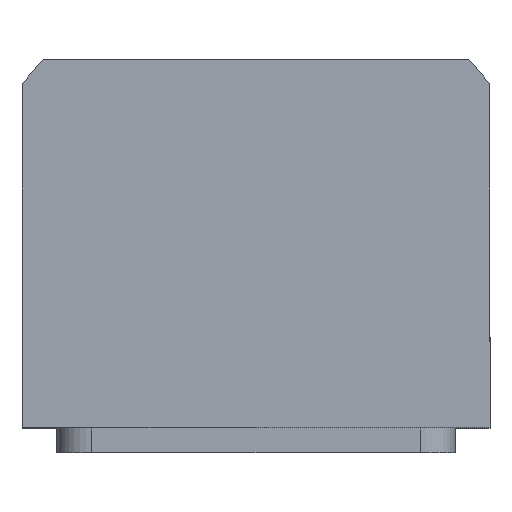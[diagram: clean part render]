
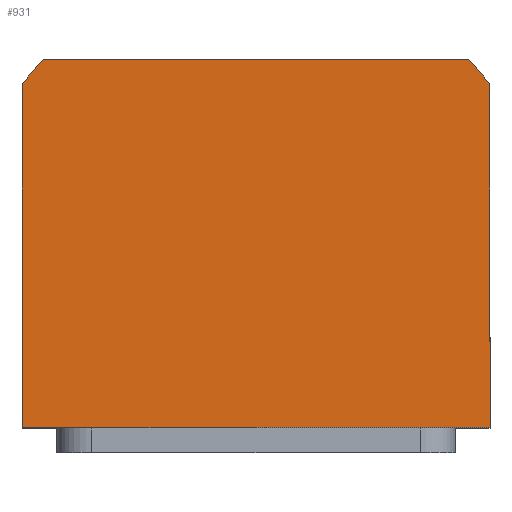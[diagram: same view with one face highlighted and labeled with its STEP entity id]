
A CAD part, top view. The second image highlights one B-rep face of the part: STEP entity #931.
In plain terms, the highlighted planar face has unit normal (0, 0, 1).
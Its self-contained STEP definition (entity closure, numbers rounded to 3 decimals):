
#104 = DIRECTION ( 'NONE',  ( 0., -1., 0. ) ) ;
#145 = DIRECTION ( 'NONE',  ( 0., 1., 0. ) ) ;
#931 = ADVANCED_FACE ( 'NONE', ( #5028 ), #7140, .T. ) ;
#1042 = VERTEX_POINT ( 'NONE', #1425 ) ;
#1148 = CARTESIAN_POINT ( 'NONE',  ( 0., 0., 52.5 ) ) ;
#1168 = ORIENTED_EDGE ( 'NONE', *, *, #6647, .T. ) ;
#1425 = CARTESIAN_POINT ( 'NONE',  ( 47., -34., 52.5 ) ) ;
#1853 = VECTOR ( 'NONE', #104, 1000. ) ;
#1873 = EDGE_CURVE ( 'NONE', #6064, #10573, #9437, .T. ) ;
#2165 = CARTESIAN_POINT ( 'NONE',  ( 42.688, 40., 52.5 ) ) ;
#2871 = DIRECTION ( 'NONE',  ( 1., 0., 0. ) ) ;
#3164 = CARTESIAN_POINT ( 'NONE',  ( -42.688, 40., 52.5 ) ) ;
#3361 = AXIS2_PLACEMENT_3D ( 'NONE', #3376, #10210, #3451 ) ;
#3376 = CARTESIAN_POINT ( 'NONE',  ( 0., 0., 52.5 ) ) ;
#3451 = DIRECTION ( 'NONE',  ( 1., 0., 0. ) ) ;
#3823 = ORIENTED_EDGE ( 'NONE', *, *, #6723, .T. ) ;
#4039 = CARTESIAN_POINT ( 'NONE',  ( -42.688, 40., 52.5 ) ) ;
#4150 = LINE ( 'NONE', #6910, #1853 ) ;
#4456 = VECTOR ( 'NONE', #4884, 1000. ) ;
#4515 = CARTESIAN_POINT ( 'NONE',  ( 47., -34., 52.5 ) ) ;
#4884 = DIRECTION ( 'NONE',  ( -1., 0., 0. ) ) ;
#5028 = FACE_OUTER_BOUND ( 'NONE', #8286, .T. ) ;
#5059 = ORIENTED_EDGE ( 'NONE', *, *, #1873, .T. ) ;
#5111 = VECTOR ( 'NONE', #145, 1000. ) ;
#5122 = LINE ( 'NONE', #3164, #4456 ) ;
#5157 = VERTEX_POINT ( 'NONE', #8476 ) ;
#5250 = CARTESIAN_POINT ( 'NONE',  ( 47., 34.832, 52.5 ) ) ;
#5395 = DIRECTION ( 'NONE',  ( 1., 0., 0. ) ) ;
#5502 = LINE ( 'NONE', #5250, #5111 ) ;
#5632 = VECTOR ( 'NONE', #5395, 1000. ) ;
#5654 = EDGE_CURVE ( 'NONE', #9642, #6064, #5122, .T. ) ;
#5714 = ORIENTED_EDGE ( 'NONE', *, *, #9327, .T. ) ;
#5903 = LINE ( 'NONE', #4515, #5632 ) ;
#6064 = VERTEX_POINT ( 'NONE', #4039 ) ;
#6377 = DIRECTION ( 'NONE',  ( 1., 0., 0. ) ) ;
#6647 = EDGE_CURVE ( 'NONE', #1042, #5157, #5502, .T. ) ;
#6723 = EDGE_CURVE ( 'NONE', #9584, #1042, #5903, .T. ) ;
#6764 = ORIENTED_EDGE ( 'NONE', *, *, #7816, .T. ) ;
#6910 = CARTESIAN_POINT ( 'NONE',  ( -47., -34., 52.5 ) ) ;
#7140 = PLANE ( 'NONE',  #8242 ) ;
#7220 = DIRECTION ( 'NONE',  ( 0., 0., 1. ) ) ;
#7278 = DIRECTION ( 'NONE',  ( 0., 0., 1. ) ) ;
#7290 = ORIENTED_EDGE ( 'NONE', *, *, #5654, .T. ) ;
#7816 = EDGE_CURVE ( 'NONE', #5157, #9642, #10983, .T. ) ;
#7907 = AXIS2_PLACEMENT_3D ( 'NONE', #1148, #7278, #6377 ) ;
#8158 = CARTESIAN_POINT ( 'NONE',  ( -47., -34., 52.5 ) ) ;
#8242 = AXIS2_PLACEMENT_3D ( 'NONE', #9772, #7220, #2871 ) ;
#8286 = EDGE_LOOP ( 'NONE', ( #3823, #1168, #6764, #7290, #5059, #5714 ) ) ;
#8476 = CARTESIAN_POINT ( 'NONE',  ( 47., 34.832, 52.5 ) ) ;
#9327 = EDGE_CURVE ( 'NONE', #10573, #9584, #4150, .T. ) ;
#9437 = CIRCLE ( 'NONE', #3361, 58.5 ) ;
#9584 = VERTEX_POINT ( 'NONE', #8158 ) ;
#9642 = VERTEX_POINT ( 'NONE', #2165 ) ;
#9772 = CARTESIAN_POINT ( 'NONE',  ( 0., 0., 52.5 ) ) ;
#10210 = DIRECTION ( 'NONE',  ( 0., 0., 1. ) ) ;
#10573 = VERTEX_POINT ( 'NONE', #10730 ) ;
#10730 = CARTESIAN_POINT ( 'NONE',  ( -47., 34.832, 52.5 ) ) ;
#10983 = CIRCLE ( 'NONE', #7907, 58.5 ) ;
